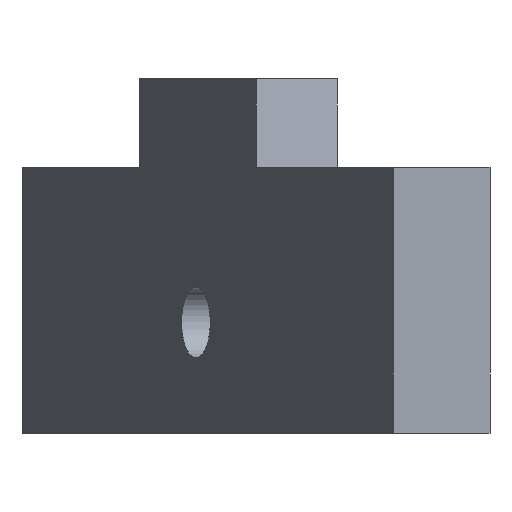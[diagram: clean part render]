
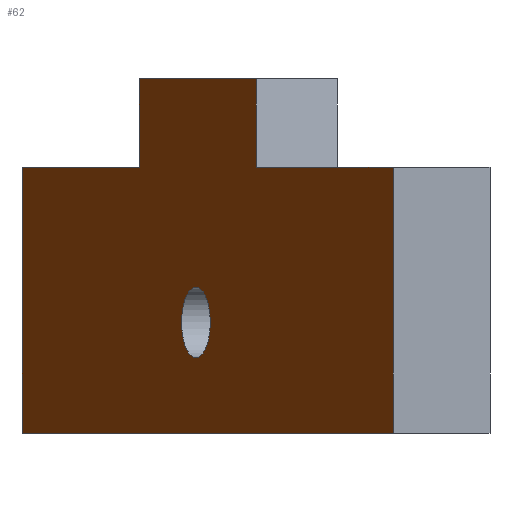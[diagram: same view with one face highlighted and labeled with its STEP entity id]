
A CAD part, front view. The second image highlights one B-rep face of the part: STEP entity #62.
In plain terms, the highlighted planar face has unit normal (-0.915, -0.404, 0).
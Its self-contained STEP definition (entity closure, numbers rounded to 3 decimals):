
#62=ADVANCED_FACE('',(#88,#89),#90,.F.);
#88=FACE_BOUND('',#115,.T.);
#89=FACE_OUTER_BOUND('',#116,.T.);
#90=PLANE('',#117);
#115=EDGE_LOOP('',(#202,#203));
#116=EDGE_LOOP('',(#204,#205,#206,#207,#208,#209,#210,#211));
#117=AXIS2_PLACEMENT_3D('',#212,#213,#214);
#202=ORIENTED_EDGE('',*,*,#219,.T.);
#203=ORIENTED_EDGE('',*,*,#220,.T.);
#204=ORIENTED_EDGE('',*,*,#232,.T.);
#205=ORIENTED_EDGE('',*,*,#235,.F.);
#206=ORIENTED_EDGE('',*,*,#240,.T.);
#207=ORIENTED_EDGE('',*,*,#243,.F.);
#208=ORIENTED_EDGE('',*,*,#245,.F.);
#209=ORIENTED_EDGE('',*,*,#226,.F.);
#210=ORIENTED_EDGE('',*,*,#223,.F.);
#211=ORIENTED_EDGE('',*,*,#237,.T.);
#212=CARTESIAN_POINT('',(8.682,-19.687,-5.018));
#213=DIRECTION('',(0.915,0.404,0.));
#214=DIRECTION('',(0.,0.0,-1.0));
#219=EDGE_CURVE('',#247,#251,#253,.T.);
#220=EDGE_CURVE('',#251,#247,#254,.T.);
#223=EDGE_CURVE('',#256,#259,#260,.T.);
#226=EDGE_CURVE('',#259,#264,#265,.T.);
#232=EDGE_CURVE('',#270,#274,#276,.T.);
#235=EDGE_CURVE('',#279,#274,#281,.T.);
#237=EDGE_CURVE('',#256,#270,#283,.T.);
#240=EDGE_CURVE('',#279,#286,#288,.T.);
#243=EDGE_CURVE('',#291,#286,#293,.T.);
#245=EDGE_CURVE('',#264,#291,#295,.T.);
#247=VERTEX_POINT('',#297);
#251=VERTEX_POINT('',#302);
#253=CIRCLE('',#305,1.6);
#254=CIRCLE('',#306,1.6);
#256=VERTEX_POINT('',#308);
#259=VERTEX_POINT('',#312);
#260=LINE('',#313,#314);
#264=VERTEX_POINT('',#320);
#265=LINE('',#321,#322);
#270=VERTEX_POINT('',#329);
#274=VERTEX_POINT('',#335);
#276=LINE('',#338,#339);
#279=VERTEX_POINT('',#343);
#281=LINE('',#346,#347);
#283=LINE('',#350,#351);
#286=VERTEX_POINT('',#355);
#288=LINE('',#358,#359);
#291=VERTEX_POINT('',#363);
#293=LINE('',#366,#367);
#295=LINE('',#370,#371);
#297=CARTESIAN_POINT('',(7.853,-17.807,-8.6));
#302=CARTESIAN_POINT('',(7.853,-17.807,-5.4));
#305=AXIS2_PLACEMENT_3D('',#377,#378,#379);
#306=AXIS2_PLACEMENT_3D('',#380,#381,#382);
#308=CARTESIAN_POINT('',(0.0,0.,-12.));
#312=CARTESIAN_POINT('',(0.,0.,0.));
#313=CARTESIAN_POINT('',(0.0,0.,-12.));
#314=VECTOR('',#387,1.);
#320=CARTESIAN_POINT('',(5.292,-12.,0.));
#321=CARTESIAN_POINT('',(0.,0.,0.));
#322=VECTOR('',#390,1.);
#329=CARTESIAN_POINT('',(16.758,-37.999,-12.));
#335=CARTESIAN_POINT('',(16.758,-37.999,0.));
#338=CARTESIAN_POINT('',(16.758,-37.999,-2.509));
#339=VECTOR('',#396,1.0);
#343=CARTESIAN_POINT('',(10.584,-24.,0.));
#346=CARTESIAN_POINT('',(10.584,-24.,0.));
#347=VECTOR('',#399,1.);
#350=CARTESIAN_POINT('',(0.0,0.,-12.));
#351=VECTOR('',#401,1.);
#355=CARTESIAN_POINT('',(10.584,-24.,4.));
#358=CARTESIAN_POINT('',(10.584,-24.,0.));
#359=VECTOR('',#404,1.);
#363=CARTESIAN_POINT('',(5.292,-12.,4.));
#366=CARTESIAN_POINT('',(5.292,-12.,4.));
#367=VECTOR('',#407,1.);
#370=CARTESIAN_POINT('',(5.292,-12.,0.));
#371=VECTOR('',#409,1.);
#377=CARTESIAN_POINT('',(7.853,-17.807,-7.));
#378=DIRECTION('',(0.915,0.404,0.));
#379=DIRECTION('',(0.,0.0,-1.0));
#380=CARTESIAN_POINT('',(7.853,-17.807,-7.));
#381=DIRECTION('',(0.915,0.404,0.));
#382=DIRECTION('',(0.,0.0,-1.0));
#387=DIRECTION('',(0.,0.,1.0));
#390=DIRECTION('',(0.404,-0.915,0.));
#396=DIRECTION('',(0.,0.,1.0));
#399=DIRECTION('',(0.404,-0.915,0.));
#401=DIRECTION('',(0.404,-0.915,0.));
#404=DIRECTION('',(0.,0.,1.0));
#407=DIRECTION('',(0.404,-0.915,0.));
#409=DIRECTION('',(0.,0.,1.0));
